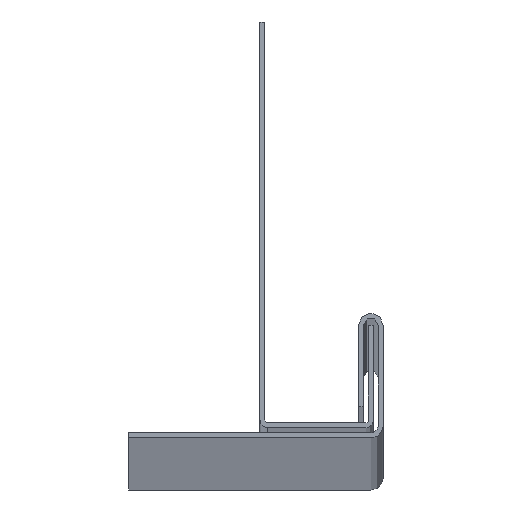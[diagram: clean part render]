
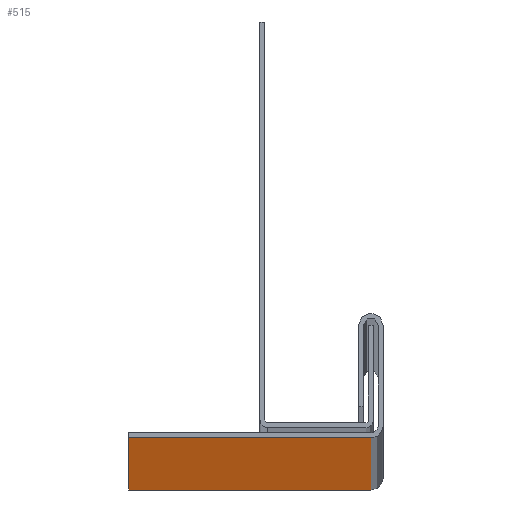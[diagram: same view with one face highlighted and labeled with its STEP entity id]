
A CAD part, top view. The second image highlights one B-rep face of the part: STEP entity #515.
In plain terms, the highlighted planar face has unit normal (0, -1, 0).
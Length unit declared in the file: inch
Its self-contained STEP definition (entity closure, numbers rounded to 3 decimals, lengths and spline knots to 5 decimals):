
#3 = VECTOR ( 'NONE', #519, 39.37008 ) ;
#4 = DIRECTION ( 'NONE',  ( -1., 0., 0. ) ) ;
#26 = FACE_OUTER_BOUND ( 'NONE', #291, .T. ) ;
#32 = ORIENTED_EDGE ( 'NONE', *, *, #824, .T. ) ;
#53 = AXIS2_PLACEMENT_3D ( 'NONE', #367, #541, #456 ) ;
#59 = CARTESIAN_POINT ( 'NONE',  ( 0.47, -0.05, 119.7 ) ) ;
#219 = ORIENTED_EDGE ( 'NONE', *, *, #869, .F. ) ;
#271 = VECTOR ( 'NONE', #566, 39.37008 ) ;
#291 = EDGE_LOOP ( 'NONE', ( #832, #219, #446, #32 ) ) ;
#345 = DIRECTION ( 'NONE',  ( -1., 0., 0. ) ) ;
#367 = CARTESIAN_POINT ( 'NONE',  ( 0.47, -0.05, 120. ) ) ;
#369 = VERTEX_POINT ( 'NONE', #881 ) ;
#409 = CARTESIAN_POINT ( 'NONE',  ( -0.5, -0.05, 120. ) ) ;
#420 = CARTESIAN_POINT ( 'NONE',  ( 0.47, -0.05, 0. ) ) ;
#446 = ORIENTED_EDGE ( 'NONE', *, *, #627, .T. ) ;
#456 = DIRECTION ( 'NONE',  ( 1., 0., 0. ) ) ;
#459 = VERTEX_POINT ( 'NONE', #602 ) ;
#467 = LINE ( 'NONE', #59, #989 ) ;
#515 = ADVANCED_FACE ( 'NONE', ( #26 ), #606, .T. ) ;
#519 = DIRECTION ( 'NONE',  ( 0., 0., -1. ) ) ;
#541 = DIRECTION ( 'NONE',  ( 0., -1., 0. ) ) ;
#566 = DIRECTION ( 'NONE',  ( 0., 0., -1. ) ) ;
#602 = CARTESIAN_POINT ( 'NONE',  ( 0.47, -0.05, 0. ) ) ;
#606 = PLANE ( 'NONE',  #53 ) ;
#618 = VERTEX_POINT ( 'NONE', #914 ) ;
#627 = EDGE_CURVE ( 'NONE', #946, #369, #467, .T. ) ;
#649 = CARTESIAN_POINT ( 'NONE',  ( 0.47, -0.05, 119.7 ) ) ;
#657 = CARTESIAN_POINT ( 'NONE',  ( 0.47, -0.05, 120. ) ) ;
#779 = VECTOR ( 'NONE', #345, 39.37008 ) ;
#824 = EDGE_CURVE ( 'NONE', #369, #618, #828, .T. ) ;
#828 = LINE ( 'NONE', #409, #271 ) ;
#832 = ORIENTED_EDGE ( 'NONE', *, *, #988, .F. ) ;
#869 = EDGE_CURVE ( 'NONE', #946, #459, #992, .T. ) ;
#881 = CARTESIAN_POINT ( 'NONE',  ( -0.5, -0.05, 119.7 ) ) ;
#914 = CARTESIAN_POINT ( 'NONE',  ( -0.5, -0.05, 0. ) ) ;
#946 = VERTEX_POINT ( 'NONE', #649 ) ;
#975 = LINE ( 'NONE', #420, #779 ) ;
#988 = EDGE_CURVE ( 'NONE', #459, #618, #975, .T. ) ;
#989 = VECTOR ( 'NONE', #4, 39.37008 ) ;
#992 = LINE ( 'NONE', #657, #3 ) ;
